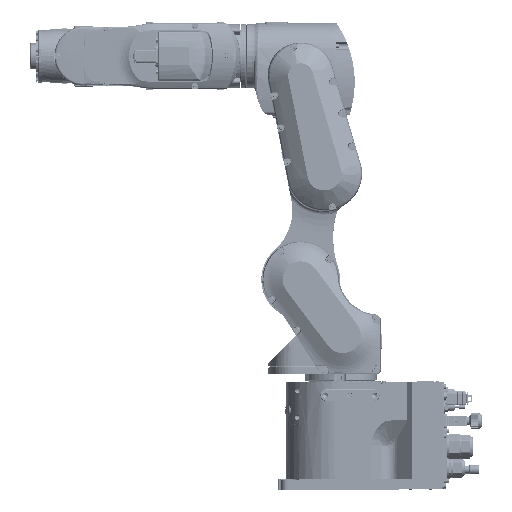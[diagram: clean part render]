
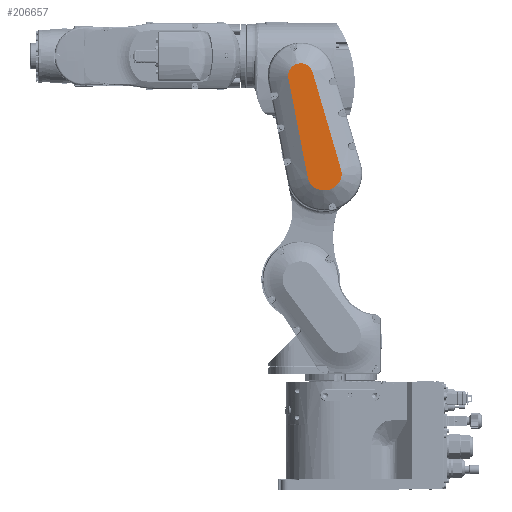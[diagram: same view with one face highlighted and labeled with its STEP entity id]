
A CAD part, top view. The second image highlights one B-rep face of the part: STEP entity #206657.
In plain terms, the highlighted planar face has unit normal (0, 0, 1).
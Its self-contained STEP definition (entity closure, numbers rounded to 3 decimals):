
#7608 = DIRECTION ( 'NONE',  ( 0.777, -0.629, 0. ) ) ;
#10773 = DIRECTION ( 'NONE',  ( 0., 0., -1. ) ) ;
#12077 = EDGE_LOOP ( 'NONE', ( #225033, #43510, #215474, #248316, #134087, #216391, #176884 ) ) ;
#18560 = VERTEX_POINT ( 'NONE', #217538 ) ;
#27056 = DIRECTION ( 'NONE',  ( -0.982, -0.191, 0. ) ) ;
#29999 = VERTEX_POINT ( 'NONE', #132726 ) ;
#32571 = DIRECTION ( 'NONE',  ( 0., -1., 0. ) ) ;
#35298 = CARTESIAN_POINT ( 'NONE',  ( 24.508, 137.926, 110. ) ) ;
#43510 = ORIENTED_EDGE ( 'NONE', *, *, #160059, .T. ) ;
#46411 = LINE ( 'NONE', #108099, #208443 ) ;
#49128 = CIRCLE ( 'NONE', #131370, 18.991 ) ;
#52987 = EDGE_CURVE ( 'NONE', #154034, #29999, #179880, .T. ) ;
#61207 = VERTEX_POINT ( 'NONE', #133704 ) ;
#65208 = EDGE_CURVE ( 'NONE', #18560, #61207, #104999, .T. ) ;
#67506 = VECTOR ( 'NONE', #110079, 1000. ) ;
#68742 = CARTESIAN_POINT ( 'NONE',  ( 24.508, 137.926, 110. ) ) ;
#75006 = LINE ( 'NONE', #153443, #249305 ) ;
#81695 = FACE_OUTER_BOUND ( 'NONE', #12077, .T. ) ;
#90611 = DIRECTION ( 'NONE',  ( 0., 0., 1. ) ) ;
#93819 = CARTESIAN_POINT ( 'NONE',  ( 35.69, 163.04, 110. ) ) ;
#95509 = DIRECTION ( 'NONE',  ( -0.281, 0.96, 0. ) ) ;
#102177 = PLANE ( 'NONE',  #156657 ) ;
#104999 = LINE ( 'NONE', #224690, #67506 ) ;
#108099 = CARTESIAN_POINT ( 'NONE',  ( -18.641, 306.382, 110. ) ) ;
#110079 = DIRECTION ( 'NONE',  ( 0.191, -0.982, 0. ) ) ;
#114012 = AXIS2_PLACEMENT_3D ( 'NONE', #93819, #176116, #177382 ) ;
#117593 = CARTESIAN_POINT ( 'NONE',  ( 61.437, 167.571, 110. ) ) ;
#121246 = DIRECTION ( 'NONE',  ( -0.982, -0.191, 0. ) ) ;
#122016 = AXIS2_PLACEMENT_3D ( 'NONE', #145655, #221598, #121246 ) ;
#131370 = AXIS2_PLACEMENT_3D ( 'NONE', #167822, #90611, #169080 ) ;
#132726 = CARTESIAN_POINT ( 'NONE',  ( 57.055, 145.739, 110. ) ) ;
#133704 = CARTESIAN_POINT ( 'NONE',  ( 10.716, 155.267, 110. ) ) ;
#134087 = ORIENTED_EDGE ( 'NONE', *, *, #52987, .T. ) ;
#145655 = CARTESIAN_POINT ( 'NONE',  ( 34.266, 159.843, 110. ) ) ;
#153443 = CARTESIAN_POINT ( 'NONE',  ( 61.437, 167.571, 110. ) ) ;
#154034 = VERTEX_POINT ( 'NONE', #35298 ) ;
#156657 = AXIS2_PLACEMENT_3D ( 'NONE', #68742, #10773, #32571 ) ;
#157604 = VERTEX_POINT ( 'NONE', #117593 ) ;
#160059 = EDGE_CURVE ( 'NONE', #253043, #18560, #46411, .T. ) ;
#165897 = DIRECTION ( 'NONE',  ( 0., 0., 1. ) ) ;
#167822 = CARTESIAN_POINT ( 'NONE',  ( 0.003, 309.993, 110. ) ) ;
#169080 = DIRECTION ( 'NONE',  ( -1., 0., 0. ) ) ;
#176116 = DIRECTION ( 'NONE',  ( 0., 0., 1. ) ) ;
#176884 = ORIENTED_EDGE ( 'NONE', *, *, #239247, .T. ) ;
#177382 = DIRECTION ( 'NONE',  ( -0.407, -0.914, 0. ) ) ;
#178024 = CIRCLE ( 'NONE', #190423, 23.991 ) ;
#179880 = CIRCLE ( 'NONE', #114012, 27.491 ) ;
#188524 = EDGE_CURVE ( 'NONE', #61207, #154034, #191915, .T. ) ;
#190423 = AXIS2_PLACEMENT_3D ( 'NONE', #200697, #165897, #7608 ) ;
#191915 = CIRCLE ( 'NONE', #122016, 23.991 ) ;
#200697 = CARTESIAN_POINT ( 'NONE',  ( 38.41, 160.837, 110. ) ) ;
#202698 = CARTESIAN_POINT ( 'NONE',  ( -18.641, 306.382, 110. ) ) ;
#206550 = VERTEX_POINT ( 'NONE', #209191 ) ;
#206657 = ADVANCED_FACE ( 'NONE', ( #81695 ), #102177, .F. ) ;
#208443 = VECTOR ( 'NONE', #27056, 1000. ) ;
#209191 = CARTESIAN_POINT ( 'NONE',  ( 18.231, 315.323, 110. ) ) ;
#215474 = ORIENTED_EDGE ( 'NONE', *, *, #65208, .T. ) ;
#216391 = ORIENTED_EDGE ( 'NONE', *, *, #250667, .T. ) ;
#217538 = CARTESIAN_POINT ( 'NONE',  ( -18.644, 306.381, 110. ) ) ;
#221598 = DIRECTION ( 'NONE',  ( 0., 0., 1. ) ) ;
#224690 = CARTESIAN_POINT ( 'NONE',  ( -18.644, 306.381, 110. ) ) ;
#225033 = ORIENTED_EDGE ( 'NONE', *, *, #246853, .T. ) ;
#239247 = EDGE_CURVE ( 'NONE', #157604, #206550, #75006, .T. ) ;
#246853 = EDGE_CURVE ( 'NONE', #206550, #253043, #49128, .T. ) ;
#248316 = ORIENTED_EDGE ( 'NONE', *, *, #188524, .T. ) ;
#249305 = VECTOR ( 'NONE', #95509, 1000. ) ;
#250667 = EDGE_CURVE ( 'NONE', #29999, #157604, #178024, .T. ) ;
#253043 = VERTEX_POINT ( 'NONE', #202698 ) ;
